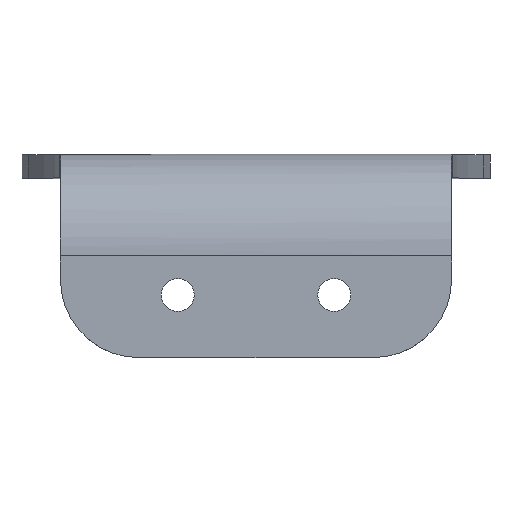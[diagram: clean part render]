
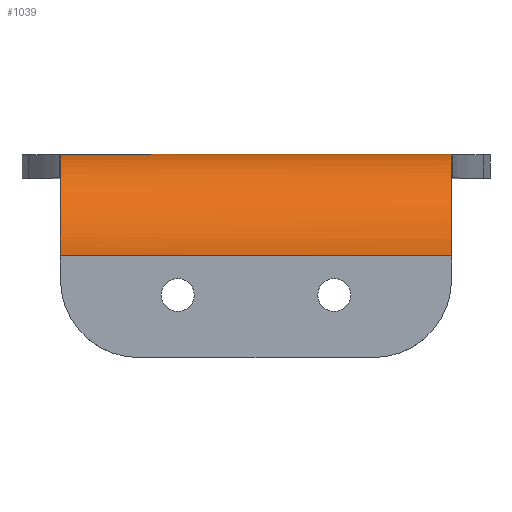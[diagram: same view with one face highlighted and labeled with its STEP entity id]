
A CAD part, top view. The second image highlights one B-rep face of the part: STEP entity #1039.
In plain terms, the highlighted cylindrical face has radius 13 mm (diameter 26 mm), a partial arc.
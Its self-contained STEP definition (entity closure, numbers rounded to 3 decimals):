
#93 = CARTESIAN_POINT ( 'NONE',  ( -24.98, 4.4, 39.996 ) ) ;
#118 = B_SPLINE_CURVE_WITH_KNOTS ( 'NONE', 3,
 ( #1327, #790, #364, #1103, #140, #480, #902, #465, #1330, #925, #1144, #801, #1137, #286, #1128, #500, #1126, #922 ),
 .UNSPECIFIED., .F., .F.,
 ( 4, 2, 2, 2, 2, 2, 2, 2, 4 ),
 ( 0., 0.125, 0.25, 0.375, 0.5, 0.625, 0.75, 0.875, 1. ),
 .UNSPECIFIED. ) ;
#140 = CARTESIAN_POINT ( 'NONE',  ( 24.988, -4.002, 48.4 ) ) ;
#143 = VECTOR ( 'NONE', #1098, 1000. ) ;
#147 = CARTESIAN_POINT ( 'NONE',  ( 25., -8., 49. ) ) ;
#154 = VERTEX_POINT ( 'NONE', #205 ) ;
#158 = CARTESIAN_POINT ( 'NONE',  ( 0., -8., 36. ) ) ;
#172 = EDGE_CURVE ( 'NONE', #498, #154, #337, .T. ) ;
#199 = CARTESIAN_POINT ( 'NONE',  ( -24.99, 4.632, 39.179 ) ) ;
#204 = ORIENTED_EDGE ( 'NONE', *, *, #977, .T. ) ;
#205 = CARTESIAN_POINT ( 'NONE',  ( -25., -8., 49. ) ) ;
#209 = CARTESIAN_POINT ( 'NONE',  ( -24.988, -4.002, 48.4 ) ) ;
#286 = CARTESIAN_POINT ( 'NONE',  ( 24.98, 4.4, 39.996 ) ) ;
#301 = AXIS2_PLACEMENT_3D ( 'NONE', #158, #914, #393 ) ;
#307 = CARTESIAN_POINT ( 'NONE',  ( -24.962, 3.361, 42.381 ) ) ;
#337 = B_SPLINE_CURVE_WITH_KNOTS ( 'NONE', 3,
 ( #731, #843, #954, #199, #93, #848, #307, #636, #518, #1388, #1052, #743, #411, #209, #1266, #619, #1156, #745 ),
 .UNSPECIFIED., .F., .F.,
 ( 4, 2, 2, 2, 2, 2, 2, 2, 4 ),
 ( 0., 0.125, 0.25, 0.375, 0.5, 0.625, 0.75, 0.875, 1. ),
 .UNSPECIFIED. ) ;
#364 = CARTESIAN_POINT ( 'NONE',  ( 24.998, -6.436, 48.932 ) ) ;
#393 = DIRECTION ( 'NONE',  ( 0., 0., -1. ) ) ;
#411 = CARTESIAN_POINT ( 'NONE',  ( -24.979, -2.401, 47.764 ) ) ;
#457 = EDGE_CURVE ( 'NONE', #929, #154, #1212, .T. ) ;
#465 = CARTESIAN_POINT ( 'NONE',  ( 24.966, -0.136, 46.389 ) ) ;
#475 = VECTOR ( 'NONE', #1127, 1000. ) ;
#480 = CARTESIAN_POINT ( 'NONE',  ( 24.979, -2.401, 47.764 ) ) ;
#498 = VERTEX_POINT ( 'NONE', #1256 ) ;
#500 = CARTESIAN_POINT ( 'NONE',  ( 25.019, 4.932, 37.564 ) ) ;
#518 = CARTESIAN_POINT ( 'NONE',  ( -24.959, 1.825, 44.56 ) ) ;
#619 = CARTESIAN_POINT ( 'NONE',  ( -24.998, -6.436, 48.932 ) ) ;
#636 = CARTESIAN_POINT ( 'NONE',  ( -24.958, 2.391, 43.863 ) ) ;
#643 = ORIENTED_EDGE ( 'NONE', *, *, #172, .T. ) ;
#665 = FACE_OUTER_BOUND ( 'NONE', #692, .T. ) ;
#692 = EDGE_LOOP ( 'NONE', ( #643, #779, #204, #693 ) ) ;
#693 = ORIENTED_EDGE ( 'NONE', *, *, #1357, .F. ) ;
#731 = CARTESIAN_POINT ( 'NONE',  ( -25.06, 5., 36. ) ) ;
#743 = CARTESIAN_POINT ( 'NONE',  ( -24.974, -1.617, 47.36 ) ) ;
#745 = CARTESIAN_POINT ( 'NONE',  ( -25., -8., 49. ) ) ;
#769 = CARTESIAN_POINT ( 'NONE',  ( 0., 5., 36. ) ) ;
#779 = ORIENTED_EDGE ( 'NONE', *, *, #457, .F. ) ;
#790 = CARTESIAN_POINT ( 'NONE',  ( 25., -7.234, 49. ) ) ;
#799 = CARTESIAN_POINT ( 'NONE',  ( -25., -8., 49. ) ) ;
#801 = CARTESIAN_POINT ( 'NONE',  ( 24.962, 3.361, 42.381 ) ) ;
#843 = CARTESIAN_POINT ( 'NONE',  ( -25.037, 5., 36.766 ) ) ;
#848 = CARTESIAN_POINT ( 'NONE',  ( -24.966, 3.765, 41.598 ) ) ;
#902 = CARTESIAN_POINT ( 'NONE',  ( 24.974, -1.617, 47.36 ) ) ;
#914 = DIRECTION ( 'NONE',  ( 1., 0., 0. ) ) ;
#921 = LINE ( 'NONE', #769, #143 ) ;
#922 = CARTESIAN_POINT ( 'NONE',  ( 25.06, 5., 36. ) ) ;
#925 = CARTESIAN_POINT ( 'NONE',  ( 24.959, 1.825, 44.56 ) ) ;
#929 = VERTEX_POINT ( 'NONE', #147 ) ;
#933 = CYLINDRICAL_SURFACE ( 'NONE', #301, 13. ) ;
#954 = CARTESIAN_POINT ( 'NONE',  ( -25.019, 4.932, 37.564 ) ) ;
#977 = EDGE_CURVE ( 'NONE', #929, #1366, #118, .T. ) ;
#1039 = ADVANCED_FACE ( 'NONE', ( #665 ), #933, .T. ) ;
#1052 = CARTESIAN_POINT ( 'NONE',  ( -24.966, -0.136, 46.389 ) ) ;
#1098 = DIRECTION ( 'NONE',  ( 1., 0., 0. ) ) ;
#1103 = CARTESIAN_POINT ( 'NONE',  ( 24.992, -4.82, 48.632 ) ) ;
#1126 = CARTESIAN_POINT ( 'NONE',  ( 25.037, 5., 36.766 ) ) ;
#1127 = DIRECTION ( 'NONE',  ( -1., 0., 0. ) ) ;
#1128 = CARTESIAN_POINT ( 'NONE',  ( 24.99, 4.632, 39.179 ) ) ;
#1137 = CARTESIAN_POINT ( 'NONE',  ( 24.966, 3.765, 41.598 ) ) ;
#1144 = CARTESIAN_POINT ( 'NONE',  ( 24.958, 2.391, 43.863 ) ) ;
#1156 = CARTESIAN_POINT ( 'NONE',  ( -25., -7.234, 49. ) ) ;
#1202 = CARTESIAN_POINT ( 'NONE',  ( 25.06, 5., 36. ) ) ;
#1212 = LINE ( 'NONE', #799, #475 ) ;
#1256 = CARTESIAN_POINT ( 'NONE',  ( -25.06, 5., 36. ) ) ;
#1266 = CARTESIAN_POINT ( 'NONE',  ( -24.992, -4.82, 48.632 ) ) ;
#1327 = CARTESIAN_POINT ( 'NONE',  ( 25., -8., 49. ) ) ;
#1330 = CARTESIAN_POINT ( 'NONE',  ( 24.963, 0.561, 45.823 ) ) ;
#1357 = EDGE_CURVE ( 'NONE', #498, #1366, #921, .T. ) ;
#1366 = VERTEX_POINT ( 'NONE', #1202 ) ;
#1388 = CARTESIAN_POINT ( 'NONE',  ( -24.963, 0.561, 45.823 ) ) ;
